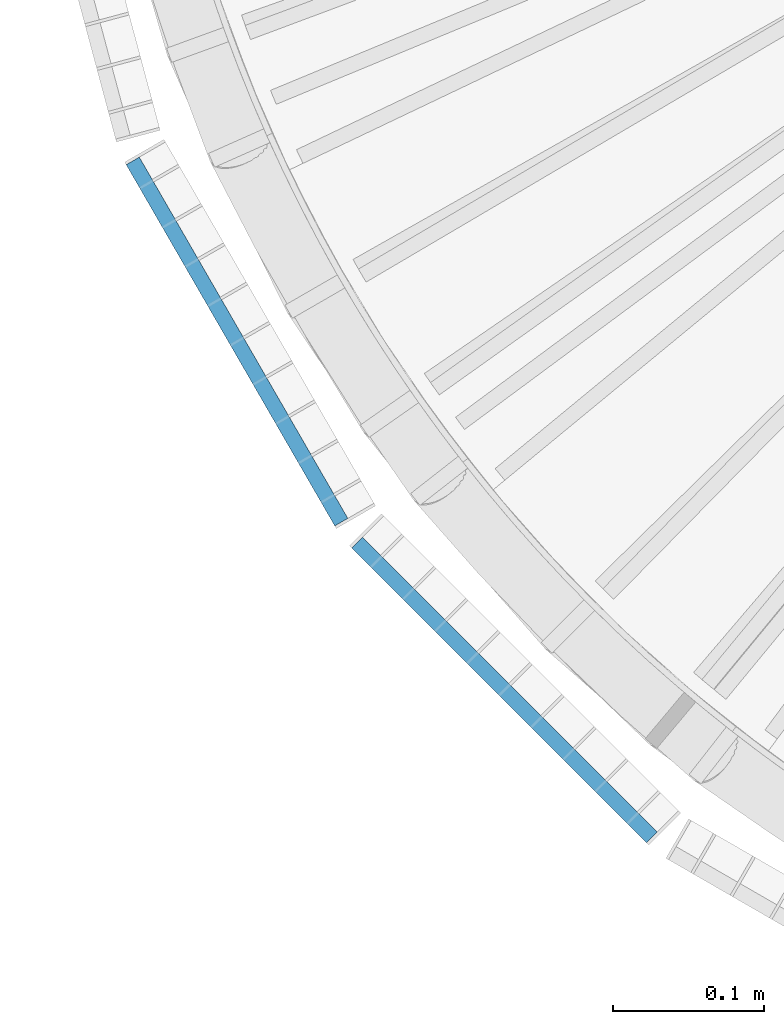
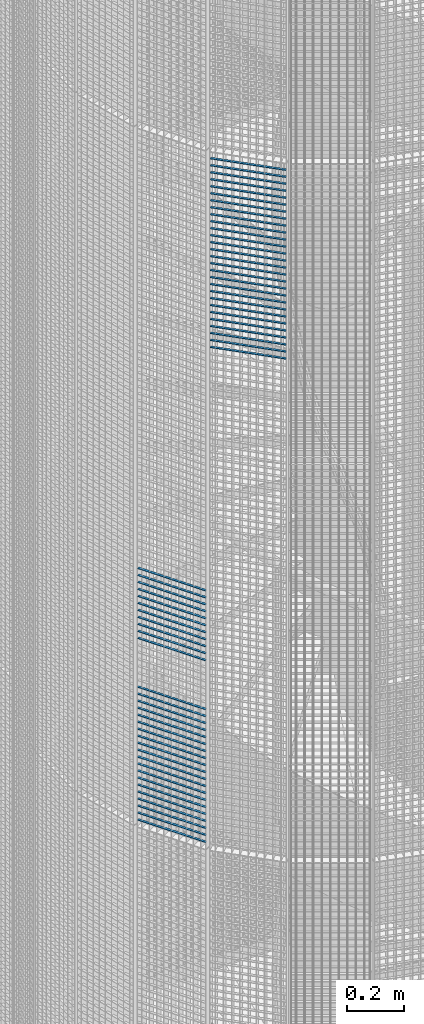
# One storey, part 348 of 1183: 59 beams, 2 elements without a shape of their own.
"""IFC2X3 building model written with IfcOpenShell, lengths in millimetres."""

from ifc_helpers import new_model, si_unit, frame, origin_with_axes, origin_2d_with_axis, place, context, subcontext, project, spatial, rectangle, extrude, material, type_object, element, aggregate, save


model = new_model("IFC2X3")

# Units and contexts
model_context = context("Model", 3, precision=1e-05, world=origin_with_axes())
body_context = subcontext(model_context, "Body", "Model", "MODEL_VIEW")
ifc_project = project(units=[si_unit("LENGTHUNIT", "METRE", prefix="MILLI"), si_unit("AREAUNIT", "SQUARE_METRE"), si_unit("VOLUMEUNIT", "CUBIC_METRE"), si_unit("MASSUNIT", "GRAM", prefix="KILO"), si_unit("TIMEUNIT", "SECOND"), si_unit("PLANEANGLEUNIT", "RADIAN"), si_unit("SOLIDANGLEUNIT", "STERADIAN"), si_unit("THERMODYNAMICTEMPERATUREUNIT", "DEGREE_CELSIUS"), si_unit("LUMINOUSINTENSITYUNIT", "LUMEN")], contexts=[model_context])

# Site, building, storey
site_placement = place(None, origin_with_axes())
site = spatial("IfcSite", under=ifc_project, at=site_placement, Name="Undefined", CompositionType="ELEMENT")
building_placement = place(site_placement, origin_with_axes())
building = spatial("IfcBuilding", under=site, at=building_placement, Name="Undefined", CompositionType="ELEMENT")
storey_placement = place(building_placement, origin_with_axes())
storey = spatial("IfcBuildingStorey", under=building, at=storey_placement, Name="Undefined", CompositionType="ELEMENT", Elevation=0.0)

# Assembly, beams
assembly_1_placement = place(storey_placement, origin_with_axes())
assembly_1 = element("IfcElementAssembly", 1, at=assembly_1_placement, inside=storey, Name="BORDURE", AssemblyPlace="NOTDEFINED", PredefinedType="NOTDEFINED")
ifc_material = material(Name="STEEL/S235JR")
beam_type = type_object("IfcBeamType", Name="PL2*10", PredefinedType="NOTDEFINED")
beam_1_placement = place(assembly_1_placement, frame((20704.6960350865, -676.248044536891, 12600.0), z_axis=(-0.866025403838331, -0.499999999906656, 0.0), x_axis=(-0.49999999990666, 0.866025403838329, 0.0)))
beam_1 = element("IfcBeam", 2, at=beam_1_placement, type_object=beam_type, material=ifc_material, Name="ENTRETOISE", context=body_context, shape_type="SweptSolid", body=[
    extrude(rectangle(XDim=2.0, YDim=10.0, at=origin_2d_with_axis()), frame((275.999999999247, 9.09494701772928e-13, 1.53210777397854e-14), z_axis=(-1.0, 0.0, 0.0), x_axis=(0.0, -1.0, 0.0)), (0.0, 0.0, 1.0), 276.0),
])
beam_2_placement = place(assembly_1_placement, frame((20704.6960350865, -676.248044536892, 12810.0), z_axis=(-0.866025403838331, -0.499999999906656, 0.0), x_axis=(-0.49999999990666, 0.866025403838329, 0.0)))
beam_2 = element("IfcBeam", 3, at=beam_2_placement, type_object=beam_type, material=ifc_material, Name="ENTRETOISE", context=body_context, shape_type="SweptSolid", body=[
    extrude(rectangle(XDim=2.0, YDim=10.0, at=origin_2d_with_axis()), frame((275.999999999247, 9.09494701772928e-13, 1.53210777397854e-14), z_axis=(-1.0, 0.0, 0.0), x_axis=(0.0, -1.0, 0.0)), (0.0, 0.0, 1.0), 276.0),
])
beam_3_placement = place(assembly_1_placement, frame((20704.6960350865, -676.248044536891, 12570.0), z_axis=(-0.866025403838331, -0.499999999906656, 0.0), x_axis=(-0.49999999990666, 0.866025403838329, 0.0)))
beam_3 = element("IfcBeam", 4, at=beam_3_placement, type_object=beam_type, material=ifc_material, Name="ENTRETOISE", context=body_context, shape_type="SweptSolid", body=[
    extrude(rectangle(XDim=2.0, YDim=10.0, at=origin_2d_with_axis()), frame((275.999999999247, 9.09494701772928e-13, 1.53210777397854e-14), z_axis=(-1.0, 0.0, 0.0), x_axis=(0.0, -1.0, 0.0)), (0.0, 0.0, 1.0), 276.0),
])
beam_4_placement = place(assembly_1_placement, frame((20704.6960350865, -676.248044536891, 12540.0), z_axis=(-0.866025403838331, -0.499999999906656, 0.0), x_axis=(-0.49999999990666, 0.866025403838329, 0.0)))
beam_4 = element("IfcBeam", 5, at=beam_4_placement, type_object=beam_type, material=ifc_material, Name="ENTRETOISE", context=body_context, shape_type="SweptSolid", body=[
    extrude(rectangle(XDim=2.0, YDim=10.0, at=origin_2d_with_axis()), frame((275.999999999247, 9.09494701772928e-13, 1.53210777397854e-14), z_axis=(-1.0, 0.0, 0.0), x_axis=(0.0, -1.0, 0.0)), (0.0, 0.0, 1.0), 276.0),
])
beam_5_placement = place(assembly_1_placement, frame((20704.6960350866, -676.248044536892, 12840.0), z_axis=(-0.866025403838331, -0.499999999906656, 0.0), x_axis=(-0.49999999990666, 0.866025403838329, 0.0)))
beam_5 = element("IfcBeam", 6, at=beam_5_placement, type_object=beam_type, material=ifc_material, Name="ENTRETOISE", context=body_context, shape_type="SweptSolid", body=[
    extrude(rectangle(XDim=2.0, YDim=10.0, at=origin_2d_with_axis()), frame((275.999999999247, 9.09494701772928e-13, 1.53210777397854e-14), z_axis=(-1.0, 0.0, 0.0), x_axis=(0.0, -1.0, 0.0)), (0.0, 0.0, 1.0), 276.0),
])
beam_6_placement = place(assembly_1_placement, frame((20704.6960350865, -676.248044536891, 12510.0), z_axis=(-0.866025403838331, -0.499999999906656, 0.0), x_axis=(-0.49999999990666, 0.866025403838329, 0.0)))
beam_6 = element("IfcBeam", 7, at=beam_6_placement, type_object=beam_type, material=ifc_material, Name="ENTRETOISE", context=body_context, shape_type="SweptSolid", body=[
    extrude(rectangle(XDim=2.0, YDim=10.0, at=origin_2d_with_axis()), frame((275.999999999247, 9.09494701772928e-13, 1.53210777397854e-14), z_axis=(-1.0, 0.0, 0.0), x_axis=(0.0, -1.0, 0.0)), (0.0, 0.0, 1.0), 276.0),
])
beam_7_placement = place(assembly_1_placement, frame((20704.6960350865, -676.248044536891, 12480.0), z_axis=(-0.866025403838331, -0.499999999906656, 0.0), x_axis=(-0.49999999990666, 0.866025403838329, 0.0)))
beam_7 = element("IfcBeam", 8, at=beam_7_placement, type_object=beam_type, material=ifc_material, Name="ENTRETOISE", context=body_context, shape_type="SweptSolid", body=[
    extrude(rectangle(XDim=2.0, YDim=10.0, at=origin_2d_with_axis()), frame((275.999999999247, 9.09494701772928e-13, 1.53210777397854e-14), z_axis=(-1.0, 0.0, 0.0), x_axis=(0.0, -1.0, 0.0)), (0.0, 0.0, 1.0), 276.0),
])
beam_8_placement = place(assembly_1_placement, frame((20704.6960350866, -676.248044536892, 12870.0), z_axis=(-0.866025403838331, -0.499999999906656, 0.0), x_axis=(-0.49999999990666, 0.866025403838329, 0.0)))
beam_8 = element("IfcBeam", 9, at=beam_8_placement, type_object=beam_type, material=ifc_material, Name="ENTRETOISE", context=body_context, shape_type="SweptSolid", body=[
    extrude(rectangle(XDim=2.0, YDim=10.0, at=origin_2d_with_axis()), frame((275.999999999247, 9.09494701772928e-13, 1.53210777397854e-14), z_axis=(-1.0, 0.0, 0.0), x_axis=(0.0, -1.0, 0.0)), (0.0, 0.0, 1.0), 276.0),
])
beam_9_placement = place(assembly_1_placement, frame((20704.6960350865, -676.248044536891, 12450.0), z_axis=(-0.866025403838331, -0.499999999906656, 0.0), x_axis=(-0.49999999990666, 0.866025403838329, 0.0)))
beam_9 = element("IfcBeam", 10, at=beam_9_placement, type_object=beam_type, material=ifc_material, Name="ENTRETOISE", context=body_context, shape_type="SweptSolid", body=[
    extrude(rectangle(XDim=2.0, YDim=10.0, at=origin_2d_with_axis()), frame((275.999999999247, 9.09494701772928e-13, 1.53210777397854e-14), z_axis=(-1.0, 0.0, 0.0), x_axis=(0.0, -1.0, 0.0)), (0.0, 0.0, 1.0), 276.0),
])
beam_10_placement = place(assembly_1_placement, frame((20704.6960350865, -676.24804453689, 12420.0), z_axis=(-0.866025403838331, -0.499999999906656, 0.0), x_axis=(-0.49999999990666, 0.866025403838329, 0.0)))
beam_10 = element("IfcBeam", 11, at=beam_10_placement, type_object=beam_type, material=ifc_material, Name="ENTRETOISE", context=body_context, shape_type="SweptSolid", body=[
    extrude(rectangle(XDim=2.0, YDim=10.0, at=origin_2d_with_axis()), frame((275.999999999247, 9.09494701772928e-13, 1.53210777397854e-14), z_axis=(-1.0, 0.0, 0.0), x_axis=(0.0, -1.0, 0.0)), (0.0, 0.0, 1.0), 276.0),
])
beam_11_placement = place(assembly_1_placement, frame((20704.6960350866, -676.248044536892, 12900.0), z_axis=(-0.866025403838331, -0.499999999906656, 0.0), x_axis=(-0.49999999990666, 0.866025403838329, 0.0)))
beam_11 = element("IfcBeam", 12, at=beam_11_placement, type_object=beam_type, material=ifc_material, Name="ENTRETOISE", context=body_context, shape_type="SweptSolid", body=[
    extrude(rectangle(XDim=2.0, YDim=10.0, at=origin_2d_with_axis()), frame((275.999999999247, 9.09494701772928e-13, 1.53210777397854e-14), z_axis=(-1.0, 0.0, 0.0), x_axis=(0.0, -1.0, 0.0)), (0.0, 0.0, 1.0), 276.0),
])
beam_12_placement = place(assembly_1_placement, frame((20704.6960350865, -676.24804453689, 12390.0), z_axis=(-0.866025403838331, -0.499999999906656, 0.0), x_axis=(-0.49999999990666, 0.866025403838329, 0.0)))
beam_12 = element("IfcBeam", 13, at=beam_12_placement, type_object=beam_type, material=ifc_material, Name="ENTRETOISE", context=body_context, shape_type="SweptSolid", body=[
    extrude(rectangle(XDim=2.0, YDim=10.0, at=origin_2d_with_axis()), frame((275.999999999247, 9.09494701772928e-13, 1.53210777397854e-14), z_axis=(-1.0, 0.0, 0.0), x_axis=(0.0, -1.0, 0.0)), (0.0, 0.0, 1.0), 276.0),
])
beam_13_placement = place(assembly_1_placement, frame((20704.6960350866, -676.248044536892, 12930.0), z_axis=(-0.866025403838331, -0.499999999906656, 0.0), x_axis=(-0.49999999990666, 0.866025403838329, 0.0)))
beam_13 = element("IfcBeam", 14, at=beam_13_placement, type_object=beam_type, material=ifc_material, Name="ENTRETOISE", context=body_context, shape_type="SweptSolid", body=[
    extrude(rectangle(XDim=2.0, YDim=10.0, at=origin_2d_with_axis()), frame((275.999999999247, 9.09494701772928e-13, 1.53210777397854e-14), z_axis=(-1.0, 0.0, 0.0), x_axis=(0.0, -1.0, 0.0)), (0.0, 0.0, 1.0), 276.0),
])
beam_14_placement = place(assembly_1_placement, frame((20704.6960350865, -676.24804453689, 12360.0), z_axis=(-0.866025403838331, -0.499999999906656, 0.0), x_axis=(-0.49999999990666, 0.866025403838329, 0.0)))
beam_14 = element("IfcBeam", 15, at=beam_14_placement, type_object=beam_type, material=ifc_material, Name="ENTRETOISE", context=body_context, shape_type="SweptSolid", body=[
    extrude(rectangle(XDim=2.0, YDim=10.0, at=origin_2d_with_axis()), frame((275.999999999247, 9.09494701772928e-13, 1.53210777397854e-14), z_axis=(-1.0, 0.0, 0.0), x_axis=(0.0, -1.0, 0.0)), (0.0, 0.0, 1.0), 276.0),
])
beam_15_placement = place(assembly_1_placement, frame((20704.6960350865, -676.24804453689, 12330.0), z_axis=(-0.866025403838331, -0.499999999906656, 0.0), x_axis=(-0.49999999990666, 0.866025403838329, 0.0)))
beam_15 = element("IfcBeam", 16, at=beam_15_placement, type_object=beam_type, material=ifc_material, Name="ENTRETOISE", context=body_context, shape_type="SweptSolid", body=[
    extrude(rectangle(XDim=2.0, YDim=10.0, at=origin_2d_with_axis()), frame((275.999999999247, 9.09494701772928e-13, 1.53210777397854e-14), z_axis=(-1.0, 0.0, 0.0), x_axis=(0.0, -1.0, 0.0)), (0.0, 0.0, 1.0), 276.0),
])
beam_16_placement = place(assembly_1_placement, frame((20704.6960350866, -676.248044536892, 12960.0), z_axis=(-0.866025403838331, -0.499999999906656, 0.0), x_axis=(-0.49999999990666, 0.866025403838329, 0.0)))
beam_16 = element("IfcBeam", 17, at=beam_16_placement, type_object=beam_type, material=ifc_material, Name="ENTRETOISE", context=body_context, shape_type="SweptSolid", body=[
    extrude(rectangle(XDim=2.0, YDim=10.0, at=origin_2d_with_axis()), frame((275.999999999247, 9.09494701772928e-13, 1.53210777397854e-14), z_axis=(-1.0, 0.0, 0.0), x_axis=(0.0, -1.0, 0.0)), (0.0, 0.0, 1.0), 276.0),
])
beam_17_placement = place(assembly_1_placement, frame((20704.6960350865, -676.24804453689, 12300.0), z_axis=(-0.866025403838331, -0.499999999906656, 0.0), x_axis=(-0.49999999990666, 0.866025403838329, 0.0)))
beam_17 = element("IfcBeam", 18, at=beam_17_placement, type_object=beam_type, material=ifc_material, Name="ENTRETOISE", context=body_context, shape_type="SweptSolid", body=[
    extrude(rectangle(XDim=2.0, YDim=10.0, at=origin_2d_with_axis()), frame((275.999999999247, 9.09494701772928e-13, 1.53210777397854e-14), z_axis=(-1.0, 0.0, 0.0), x_axis=(0.0, -1.0, 0.0)), (0.0, 0.0, 1.0), 276.0),
])
beam_18_placement = place(assembly_1_placement, frame((20704.6960350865, -676.24804453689, 12270.0), z_axis=(-0.866025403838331, -0.499999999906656, 0.0), x_axis=(-0.49999999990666, 0.866025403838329, 0.0)))
beam_18 = element("IfcBeam", 19, at=beam_18_placement, type_object=beam_type, material=ifc_material, Name="ENTRETOISE", context=body_context, shape_type="SweptSolid", body=[
    extrude(rectangle(XDim=2.0, YDim=10.0, at=origin_2d_with_axis()), frame((275.999999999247, 9.09494701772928e-13, 1.53210777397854e-14), z_axis=(-1.0, 0.0, 0.0), x_axis=(0.0, -1.0, 0.0)), (0.0, 0.0, 1.0), 276.0),
])
beam_19_placement = place(assembly_1_placement, frame((20704.6960350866, -676.248044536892, 12990.0), z_axis=(-0.866025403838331, -0.499999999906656, 0.0), x_axis=(-0.49999999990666, 0.866025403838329, 0.0)))
beam_19 = element("IfcBeam", 20, at=beam_19_placement, type_object=beam_type, material=ifc_material, Name="ENTRETOISE", context=body_context, shape_type="SweptSolid", body=[
    extrude(rectangle(XDim=2.0, YDim=10.0, at=origin_2d_with_axis()), frame((275.999999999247, 9.09494701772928e-13, 1.53210777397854e-14), z_axis=(-1.0, 0.0, 0.0), x_axis=(0.0, -1.0, 0.0)), (0.0, 0.0, 1.0), 276.0),
])
beam_20_placement = place(assembly_1_placement, frame((20704.6960350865, -676.24804453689, 12240.0), z_axis=(-0.866025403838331, -0.499999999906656, 0.0), x_axis=(-0.49999999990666, 0.866025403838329, 0.0)))
beam_20 = element("IfcBeam", 21, at=beam_20_placement, type_object=beam_type, material=ifc_material, Name="ENTRETOISE", context=body_context, shape_type="SweptSolid", body=[
    extrude(rectangle(XDim=2.0, YDim=10.0, at=origin_2d_with_axis()), frame((275.999999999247, 9.09494701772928e-13, 1.53210777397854e-14), z_axis=(-1.0, 0.0, 0.0), x_axis=(0.0, -1.0, 0.0)), (0.0, 0.0, 1.0), 276.0),
])
beam_21_placement = place(assembly_1_placement, frame((20704.6960350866, -676.248044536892, 13020.0), z_axis=(-0.866025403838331, -0.499999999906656, 0.0), x_axis=(-0.49999999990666, 0.866025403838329, 0.0)))
beam_21 = element("IfcBeam", 22, at=beam_21_placement, type_object=beam_type, material=ifc_material, Name="ENTRETOISE", context=body_context, shape_type="SweptSolid", body=[
    extrude(rectangle(XDim=2.0, YDim=10.0, at=origin_2d_with_axis()), frame((275.999999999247, 9.09494701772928e-13, 1.53210777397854e-14), z_axis=(-1.0, 0.0, 0.0), x_axis=(0.0, -1.0, 0.0)), (0.0, 0.0, 1.0), 276.0),
])
beam_22_placement = place(assembly_1_placement, frame((20704.6960350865, -676.24804453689, 12210.0), z_axis=(-0.866025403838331, -0.499999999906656, 0.0), x_axis=(-0.49999999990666, 0.866025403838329, 0.0)))
beam_22 = element("IfcBeam", 23, at=beam_22_placement, type_object=beam_type, material=ifc_material, Name="ENTRETOISE", context=body_context, shape_type="SweptSolid", body=[
    extrude(rectangle(XDim=2.0, YDim=10.0, at=origin_2d_with_axis()), frame((275.999999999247, 9.09494701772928e-13, 1.53210777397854e-14), z_axis=(-1.0, 0.0, 0.0), x_axis=(0.0, -1.0, 0.0)), (0.0, 0.0, 1.0), 276.0),
])
beam_23_placement = place(assembly_1_placement, frame((20704.6960350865, -676.24804453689, 12180.0), z_axis=(-0.866025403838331, -0.499999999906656, 0.0), x_axis=(-0.49999999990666, 0.866025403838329, 0.0)))
beam_23 = element("IfcBeam", 24, at=beam_23_placement, type_object=beam_type, material=ifc_material, Name="ENTRETOISE", context=body_context, shape_type="SweptSolid", body=[
    extrude(rectangle(XDim=2.0, YDim=10.0, at=origin_2d_with_axis()), frame((275.999999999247, 9.09494701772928e-13, 1.53210777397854e-14), z_axis=(-1.0, 0.0, 0.0), x_axis=(0.0, -1.0, 0.0)), (0.0, 0.0, 1.0), 276.0),
])
beam_24_placement = place(assembly_1_placement, frame((20704.6960350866, -676.248044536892, 13050.0), z_axis=(-0.866025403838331, -0.499999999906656, 0.0), x_axis=(-0.49999999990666, 0.866025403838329, 0.0)))
beam_24 = element("IfcBeam", 25, at=beam_24_placement, type_object=beam_type, material=ifc_material, Name="ENTRETOISE", context=body_context, shape_type="SweptSolid", body=[
    extrude(rectangle(XDim=2.0, YDim=10.0, at=origin_2d_with_axis()), frame((275.999999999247, 9.09494701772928e-13, 1.53210777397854e-14), z_axis=(-1.0, 0.0, 0.0), x_axis=(0.0, -1.0, 0.0)), (0.0, 0.0, 1.0), 276.0),
])
beam_25_placement = place(assembly_1_placement, frame((20704.6960350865, -676.24804453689, 12150.0), z_axis=(-0.866025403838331, -0.499999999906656, 0.0), x_axis=(-0.49999999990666, 0.866025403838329, 0.0)))
beam_25 = element("IfcBeam", 26, at=beam_25_placement, type_object=beam_type, material=ifc_material, Name="ENTRETOISE", context=body_context, shape_type="SweptSolid", body=[
    extrude(rectangle(XDim=2.0, YDim=10.0, at=origin_2d_with_axis()), frame((275.999999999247, 9.09494701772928e-13, 1.53210777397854e-14), z_axis=(-1.0, 0.0, 0.0), x_axis=(0.0, -1.0, 0.0)), (0.0, 0.0, 1.0), 276.0),
])
beam_26_placement = place(assembly_1_placement, frame((20704.6960350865, -676.24804453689, 12120.0), z_axis=(-0.866025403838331, -0.499999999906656, 0.0), x_axis=(-0.49999999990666, 0.866025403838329, 0.0)))
beam_26 = element("IfcBeam", 27, at=beam_26_placement, type_object=beam_type, material=ifc_material, Name="ENTRETOISE", context=body_context, shape_type="SweptSolid", body=[
    extrude(rectangle(XDim=2.0, YDim=10.0, at=origin_2d_with_axis()), frame((275.999999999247, 9.09494701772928e-13, 1.53210777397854e-14), z_axis=(-1.0, 0.0, 0.0), x_axis=(0.0, -1.0, 0.0)), (0.0, 0.0, 1.0), 276.0),
])
beam_27_placement = place(assembly_1_placement, frame((20704.6960350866, -676.248044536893, 13080.0), z_axis=(-0.866025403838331, -0.499999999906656, 0.0), x_axis=(-0.49999999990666, 0.866025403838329, 0.0)))
beam_27 = element("IfcBeam", 28, at=beam_27_placement, type_object=beam_type, material=ifc_material, Name="ENTRETOISE", context=body_context, shape_type="SweptSolid", body=[
    extrude(rectangle(XDim=2.0, YDim=10.0, at=origin_2d_with_axis()), frame((275.999999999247, 9.09494701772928e-13, 1.53210777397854e-14), z_axis=(-1.0, 0.0, 0.0), x_axis=(0.0, -1.0, 0.0)), (0.0, 0.0, 1.0), 276.0),
])
beam_28_placement = place(assembly_1_placement, frame((20704.6960350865, -676.248044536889, 12090.0), z_axis=(-0.866025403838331, -0.499999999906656, 0.0), x_axis=(-0.49999999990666, 0.866025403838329, 0.0)))
beam_28 = element("IfcBeam", 29, at=beam_28_placement, type_object=beam_type, material=ifc_material, Name="ENTRETOISE", context=body_context, shape_type="SweptSolid", body=[
    extrude(rectangle(XDim=2.0, YDim=10.0, at=origin_2d_with_axis()), frame((275.999999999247, 9.09494701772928e-13, 1.53210777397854e-14), z_axis=(-1.0, 0.0, 0.0), x_axis=(0.0, -1.0, 0.0)), (0.0, 0.0, 1.0), 276.0),
])
beam_29_placement = place(assembly_1_placement, frame((20704.6960350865, -676.248044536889, 12060.0), z_axis=(-0.866025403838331, -0.499999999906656, 0.0), x_axis=(-0.49999999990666, 0.866025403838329, 0.0)))
beam_29 = element("IfcBeam", 30, at=beam_29_placement, type_object=beam_type, material=ifc_material, Name="ENTRETOISE", context=body_context, shape_type="SweptSolid", body=[
    extrude(rectangle(XDim=2.0, YDim=10.0, at=origin_2d_with_axis()), frame((275.999999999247, 9.09494701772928e-13, 1.53210777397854e-14), z_axis=(-1.0, 0.0, 0.0), x_axis=(0.0, -1.0, 0.0)), (0.0, 0.0, 1.0), 276.0),
])
beam_30_placement = place(assembly_1_placement, frame((20704.6960350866, -676.248044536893, 13110.0), z_axis=(-0.866025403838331, -0.499999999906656, 0.0), x_axis=(-0.49999999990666, 0.866025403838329, 0.0)))
beam_30 = element("IfcBeam", 31, at=beam_30_placement, type_object=beam_type, material=ifc_material, Name="ENTRETOISE", context=body_context, shape_type="SweptSolid", body=[
    extrude(rectangle(XDim=2.0, YDim=10.0, at=origin_2d_with_axis()), frame((275.999999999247, 9.09494701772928e-13, 1.53210777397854e-14), z_axis=(-1.0, 0.0, 0.0), x_axis=(0.0, -1.0, 0.0)), (0.0, 0.0, 1.0), 276.0),
])
beam_31_placement = place(assembly_1_placement, frame((20704.6960350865, -676.248044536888, 12030.0), z_axis=(-0.866025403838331, -0.499999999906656, 0.0), x_axis=(-0.49999999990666, 0.866025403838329, 0.0)))
beam_31 = element("IfcBeam", 32, at=beam_31_placement, type_object=beam_type, material=ifc_material, Name="ENTRETOISE", context=body_context, shape_type="SweptSolid", body=[
    extrude(rectangle(XDim=2.0, YDim=10.0, at=origin_2d_with_axis()), frame((275.999999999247, 9.09494701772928e-13, 1.53210777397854e-14), z_axis=(-1.0, 0.0, 0.0), x_axis=(0.0, -1.0, 0.0)), (0.0, 0.0, 1.0), 276.0),
])
aggregate(assembly_1, [beam_1, beam_2, beam_3, beam_4, beam_5, beam_6, beam_7, beam_8, beam_9, beam_10, beam_11, beam_12, beam_13, beam_14, beam_15, beam_16, beam_17, beam_18, beam_19, beam_20, beam_21, beam_22, beam_23, beam_24, beam_25, beam_26, beam_27, beam_28, beam_29, beam_30, beam_31])

assembly_2_placement = place(storey_placement, origin_with_axes())
assembly_2 = element("IfcElementAssembly", 33, at=assembly_2_placement, inside=storey, Name="BORDURE", AssemblyPlace="NOTDEFINED", PredefinedType="NOTDEFINED")
beam_32_placement = place(assembly_2_placement, frame((20910.2286510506, -884.927168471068, 14970.0), z_axis=(-0.70710678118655, -0.707106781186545, 0.0), x_axis=(-0.707106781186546, 0.707106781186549, 0.0)))
beam_32 = element("IfcBeam", 34, at=beam_32_placement, type_object=beam_type, material=ifc_material, Name="ENTRETOISE", context=body_context, shape_type="SweptSolid", body=[
    extrude(rectangle(XDim=2.0, YDim=10.0, at=origin_2d_with_axis()), frame((275.999999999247, 9.09494701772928e-13, 1.53210777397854e-14), z_axis=(-1.0, 0.0, 0.0), x_axis=(0.0, -1.0, 0.0)), (0.0, 0.0, 1.0), 276.0),
])
beam_33_placement = place(assembly_2_placement, frame((20910.2286510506, -884.927168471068, 14940.0), z_axis=(-0.70710678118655, -0.707106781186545, 0.0), x_axis=(-0.707106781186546, 0.707106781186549, 0.0)))
beam_33 = element("IfcBeam", 35, at=beam_33_placement, type_object=beam_type, material=ifc_material, Name="ENTRETOISE", context=body_context, shape_type="SweptSolid", body=[
    extrude(rectangle(XDim=2.0, YDim=10.0, at=origin_2d_with_axis()), frame((275.999999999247, 9.09494701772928e-13, 1.53210777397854e-14), z_axis=(-1.0, 0.0, 0.0), x_axis=(0.0, -1.0, 0.0)), (0.0, 0.0, 1.0), 276.0),
])
beam_34_placement = place(assembly_2_placement, frame((20910.2286510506, -884.927168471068, 14910.0), z_axis=(-0.70710678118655, -0.707106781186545, 0.0), x_axis=(-0.707106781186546, 0.707106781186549, 0.0)))
beam_34 = element("IfcBeam", 36, at=beam_34_placement, type_object=beam_type, material=ifc_material, Name="ENTRETOISE", context=body_context, shape_type="SweptSolid", body=[
    extrude(rectangle(XDim=2.0, YDim=10.0, at=origin_2d_with_axis()), frame((275.999999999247, 9.09494701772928e-13, 1.53210777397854e-14), z_axis=(-1.0, 0.0, 0.0), x_axis=(0.0, -1.0, 0.0)), (0.0, 0.0, 1.0), 276.0),
])
beam_35_placement = place(assembly_2_placement, frame((20910.2286510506, -884.927168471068, 14880.0), z_axis=(-0.70710678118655, -0.707106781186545, 0.0), x_axis=(-0.707106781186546, 0.707106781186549, 0.0)))
beam_35 = element("IfcBeam", 37, at=beam_35_placement, type_object=beam_type, material=ifc_material, Name="ENTRETOISE", context=body_context, shape_type="SweptSolid", body=[
    extrude(rectangle(XDim=2.0, YDim=10.0, at=origin_2d_with_axis()), frame((275.999999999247, 9.09494701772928e-13, 1.53210777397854e-14), z_axis=(-1.0, 0.0, 0.0), x_axis=(0.0, -1.0, 0.0)), (0.0, 0.0, 1.0), 276.0),
])
beam_36_placement = place(assembly_2_placement, frame((20910.2286510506, -884.927168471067, 14850.0), z_axis=(-0.70710678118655, -0.707106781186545, 0.0), x_axis=(-0.707106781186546, 0.707106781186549, 0.0)))
beam_36 = element("IfcBeam", 38, at=beam_36_placement, type_object=beam_type, material=ifc_material, Name="ENTRETOISE", context=body_context, shape_type="SweptSolid", body=[
    extrude(rectangle(XDim=2.0, YDim=10.0, at=origin_2d_with_axis()), frame((275.999999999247, 9.09494701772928e-13, 1.53210777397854e-14), z_axis=(-1.0, 0.0, 0.0), x_axis=(0.0, -1.0, 0.0)), (0.0, 0.0, 1.0), 276.0),
])
beam_37_placement = place(assembly_2_placement, frame((20910.2286510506, -884.927168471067, 14820.0), z_axis=(-0.70710678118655, -0.707106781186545, 0.0), x_axis=(-0.707106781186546, 0.707106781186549, 0.0)))
beam_37 = element("IfcBeam", 39, at=beam_37_placement, type_object=beam_type, material=ifc_material, Name="ENTRETOISE", context=body_context, shape_type="SweptSolid", body=[
    extrude(rectangle(XDim=2.0, YDim=10.0, at=origin_2d_with_axis()), frame((275.999999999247, 9.09494701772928e-13, 1.53210777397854e-14), z_axis=(-1.0, 0.0, 0.0), x_axis=(0.0, -1.0, 0.0)), (0.0, 0.0, 1.0), 276.0),
])
beam_38_placement = place(assembly_2_placement, frame((20910.2286510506, -884.927168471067, 14790.0), z_axis=(-0.70710678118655, -0.707106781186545, 0.0), x_axis=(-0.707106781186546, 0.707106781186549, 0.0)))
beam_38 = element("IfcBeam", 40, at=beam_38_placement, type_object=beam_type, material=ifc_material, Name="ENTRETOISE", context=body_context, shape_type="SweptSolid", body=[
    extrude(rectangle(XDim=2.0, YDim=10.0, at=origin_2d_with_axis()), frame((275.999999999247, 9.09494701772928e-13, 1.53210777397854e-14), z_axis=(-1.0, 0.0, 0.0), x_axis=(0.0, -1.0, 0.0)), (0.0, 0.0, 1.0), 276.0),
])
beam_39_placement = place(assembly_2_placement, frame((20910.2286510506, -884.927168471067, 14760.0), z_axis=(-0.70710678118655, -0.707106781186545, 0.0), x_axis=(-0.707106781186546, 0.707106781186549, 0.0)))
beam_39 = element("IfcBeam", 41, at=beam_39_placement, type_object=beam_type, material=ifc_material, Name="ENTRETOISE", context=body_context, shape_type="SweptSolid", body=[
    extrude(rectangle(XDim=2.0, YDim=10.0, at=origin_2d_with_axis()), frame((275.999999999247, 9.09494701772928e-13, 1.53210777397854e-14), z_axis=(-1.0, 0.0, 0.0), x_axis=(0.0, -1.0, 0.0)), (0.0, 0.0, 1.0), 276.0),
])
beam_40_placement = place(assembly_2_placement, frame((20910.2286510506, -884.927168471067, 14730.0), z_axis=(-0.70710678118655, -0.707106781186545, 0.0), x_axis=(-0.707106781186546, 0.707106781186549, 0.0)))
beam_40 = element("IfcBeam", 42, at=beam_40_placement, type_object=beam_type, material=ifc_material, Name="ENTRETOISE", context=body_context, shape_type="SweptSolid", body=[
    extrude(rectangle(XDim=2.0, YDim=10.0, at=origin_2d_with_axis()), frame((275.999999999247, 9.09494701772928e-13, 1.53210777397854e-14), z_axis=(-1.0, 0.0, 0.0), x_axis=(0.0, -1.0, 0.0)), (0.0, 0.0, 1.0), 276.0),
])
beam_41_placement = place(assembly_2_placement, frame((20910.2286510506, -884.927168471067, 14700.0), z_axis=(-0.70710678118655, -0.707106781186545, 0.0), x_axis=(-0.707106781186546, 0.707106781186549, 0.0)))
beam_41 = element("IfcBeam", 43, at=beam_41_placement, type_object=beam_type, material=ifc_material, Name="ENTRETOISE", context=body_context, shape_type="SweptSolid", body=[
    extrude(rectangle(XDim=2.0, YDim=10.0, at=origin_2d_with_axis()), frame((275.999999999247, 9.09494701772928e-13, 1.53210777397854e-14), z_axis=(-1.0, 0.0, 0.0), x_axis=(0.0, -1.0, 0.0)), (0.0, 0.0, 1.0), 276.0),
])
beam_42_placement = place(assembly_2_placement, frame((20910.2286510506, -884.927168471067, 14670.0), z_axis=(-0.70710678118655, -0.707106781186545, 0.0), x_axis=(-0.707106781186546, 0.707106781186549, 0.0)))
beam_42 = element("IfcBeam", 44, at=beam_42_placement, type_object=beam_type, material=ifc_material, Name="ENTRETOISE", context=body_context, shape_type="SweptSolid", body=[
    extrude(rectangle(XDim=2.0, YDim=10.0, at=origin_2d_with_axis()), frame((275.999999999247, 9.09494701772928e-13, 1.53210777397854e-14), z_axis=(-1.0, 0.0, 0.0), x_axis=(0.0, -1.0, 0.0)), (0.0, 0.0, 1.0), 276.0),
])
beam_43_placement = place(assembly_2_placement, frame((20910.2286510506, -884.927168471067, 14640.0), z_axis=(-0.70710678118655, -0.707106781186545, 0.0), x_axis=(-0.707106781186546, 0.707106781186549, 0.0)))
beam_43 = element("IfcBeam", 45, at=beam_43_placement, type_object=beam_type, material=ifc_material, Name="ENTRETOISE", context=body_context, shape_type="SweptSolid", body=[
    extrude(rectangle(XDim=2.0, YDim=10.0, at=origin_2d_with_axis()), frame((275.999999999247, 9.09494701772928e-13, 1.53210777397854e-14), z_axis=(-1.0, 0.0, 0.0), x_axis=(0.0, -1.0, 0.0)), (0.0, 0.0, 1.0), 276.0),
])
beam_44_placement = place(assembly_2_placement, frame((20910.2286510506, -884.927168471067, 14610.0), z_axis=(-0.70710678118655, -0.707106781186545, 0.0), x_axis=(-0.707106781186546, 0.707106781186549, 0.0)))
beam_44 = element("IfcBeam", 46, at=beam_44_placement, type_object=beam_type, material=ifc_material, Name="ENTRETOISE", context=body_context, shape_type="SweptSolid", body=[
    extrude(rectangle(XDim=2.0, YDim=10.0, at=origin_2d_with_axis()), frame((275.999999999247, 9.09494701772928e-13, 1.53210777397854e-14), z_axis=(-1.0, 0.0, 0.0), x_axis=(0.0, -1.0, 0.0)), (0.0, 0.0, 1.0), 276.0),
])
beam_45_placement = place(assembly_2_placement, frame((20910.2286510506, -884.927168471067, 14580.0), z_axis=(-0.70710678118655, -0.707106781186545, 0.0), x_axis=(-0.707106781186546, 0.707106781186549, 0.0)))
beam_45 = element("IfcBeam", 47, at=beam_45_placement, type_object=beam_type, material=ifc_material, Name="ENTRETOISE", context=body_context, shape_type="SweptSolid", body=[
    extrude(rectangle(XDim=2.0, YDim=10.0, at=origin_2d_with_axis()), frame((275.999999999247, 9.09494701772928e-13, 1.53210777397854e-14), z_axis=(-1.0, 0.0, 0.0), x_axis=(0.0, -1.0, 0.0)), (0.0, 0.0, 1.0), 276.0),
])
beam_46_placement = place(assembly_2_placement, frame((20910.2286510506, -884.927168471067, 14550.0), z_axis=(-0.70710678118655, -0.707106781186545, 0.0), x_axis=(-0.707106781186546, 0.707106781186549, 0.0)))
beam_46 = element("IfcBeam", 48, at=beam_46_placement, type_object=beam_type, material=ifc_material, Name="ENTRETOISE", context=body_context, shape_type="SweptSolid", body=[
    extrude(rectangle(XDim=2.0, YDim=10.0, at=origin_2d_with_axis()), frame((275.999999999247, 9.09494701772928e-13, 1.53210777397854e-14), z_axis=(-1.0, 0.0, 0.0), x_axis=(0.0, -1.0, 0.0)), (0.0, 0.0, 1.0), 276.0),
])
beam_47_placement = place(assembly_2_placement, frame((20910.2286510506, -884.927168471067, 14520.0), z_axis=(-0.70710678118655, -0.707106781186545, 0.0), x_axis=(-0.707106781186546, 0.707106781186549, 0.0)))
beam_47 = element("IfcBeam", 49, at=beam_47_placement, type_object=beam_type, material=ifc_material, Name="ENTRETOISE", context=body_context, shape_type="SweptSolid", body=[
    extrude(rectangle(XDim=2.0, YDim=10.0, at=origin_2d_with_axis()), frame((275.999999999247, 9.09494701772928e-13, 1.53210777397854e-14), z_axis=(-1.0, 0.0, 0.0), x_axis=(0.0, -1.0, 0.0)), (0.0, 0.0, 1.0), 276.0),
])
beam_48_placement = place(assembly_2_placement, frame((20910.2286510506, -884.927168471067, 14490.0), z_axis=(-0.70710678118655, -0.707106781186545, 0.0), x_axis=(-0.707106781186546, 0.707106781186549, 0.0)))
beam_48 = element("IfcBeam", 50, at=beam_48_placement, type_object=beam_type, material=ifc_material, Name="ENTRETOISE", context=body_context, shape_type="SweptSolid", body=[
    extrude(rectangle(XDim=2.0, YDim=10.0, at=origin_2d_with_axis()), frame((275.999999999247, 9.09494701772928e-13, 1.53210777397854e-14), z_axis=(-1.0, 0.0, 0.0), x_axis=(0.0, -1.0, 0.0)), (0.0, 0.0, 1.0), 276.0),
])
beam_49_placement = place(assembly_2_placement, frame((20910.2286510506, -884.927168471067, 14460.0), z_axis=(-0.70710678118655, -0.707106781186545, 0.0), x_axis=(-0.707106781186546, 0.707106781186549, 0.0)))
beam_49 = element("IfcBeam", 51, at=beam_49_placement, type_object=beam_type, material=ifc_material, Name="ENTRETOISE", context=body_context, shape_type="SweptSolid", body=[
    extrude(rectangle(XDim=2.0, YDim=10.0, at=origin_2d_with_axis()), frame((275.999999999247, 9.09494701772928e-13, 1.53210777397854e-14), z_axis=(-1.0, 0.0, 0.0), x_axis=(0.0, -1.0, 0.0)), (0.0, 0.0, 1.0), 276.0),
])
beam_50_placement = place(assembly_2_placement, frame((20910.2286510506, -884.927168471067, 14430.0), z_axis=(-0.70710678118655, -0.707106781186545, 0.0), x_axis=(-0.707106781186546, 0.707106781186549, 0.0)))
beam_50 = element("IfcBeam", 52, at=beam_50_placement, type_object=beam_type, material=ifc_material, Name="ENTRETOISE", context=body_context, shape_type="SweptSolid", body=[
    extrude(rectangle(XDim=2.0, YDim=10.0, at=origin_2d_with_axis()), frame((275.999999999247, 9.09494701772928e-13, 1.53210777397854e-14), z_axis=(-1.0, 0.0, 0.0), x_axis=(0.0, -1.0, 0.0)), (0.0, 0.0, 1.0), 276.0),
])
beam_51_placement = place(assembly_2_placement, frame((20910.2286510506, -884.927168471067, 14400.0), z_axis=(-0.70710678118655, -0.707106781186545, 0.0), x_axis=(-0.707106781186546, 0.707106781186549, 0.0)))
beam_51 = element("IfcBeam", 53, at=beam_51_placement, type_object=beam_type, material=ifc_material, Name="ENTRETOISE", context=body_context, shape_type="SweptSolid", body=[
    extrude(rectangle(XDim=2.0, YDim=10.0, at=origin_2d_with_axis()), frame((275.999999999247, 9.09494701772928e-13, 1.53210777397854e-14), z_axis=(-1.0, 0.0, 0.0), x_axis=(0.0, -1.0, 0.0)), (0.0, 0.0, 1.0), 276.0),
])
beam_52_placement = place(assembly_2_placement, frame((20910.2286510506, -884.927168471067, 14370.0), z_axis=(-0.70710678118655, -0.707106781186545, 0.0), x_axis=(-0.707106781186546, 0.707106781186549, 0.0)))
beam_52 = element("IfcBeam", 54, at=beam_52_placement, type_object=beam_type, material=ifc_material, Name="ENTRETOISE", context=body_context, shape_type="SweptSolid", body=[
    extrude(rectangle(XDim=2.0, YDim=10.0, at=origin_2d_with_axis()), frame((275.999999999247, 9.09494701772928e-13, 1.53210777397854e-14), z_axis=(-1.0, 0.0, 0.0), x_axis=(0.0, -1.0, 0.0)), (0.0, 0.0, 1.0), 276.0),
])
beam_53_placement = place(assembly_2_placement, frame((20910.2286510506, -884.927168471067, 14340.0), z_axis=(-0.70710678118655, -0.707106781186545, 0.0), x_axis=(-0.707106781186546, 0.707106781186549, 0.0)))
beam_53 = element("IfcBeam", 55, at=beam_53_placement, type_object=beam_type, material=ifc_material, Name="ENTRETOISE", context=body_context, shape_type="SweptSolid", body=[
    extrude(rectangle(XDim=2.0, YDim=10.0, at=origin_2d_with_axis()), frame((275.999999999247, 9.09494701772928e-13, 1.53210777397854e-14), z_axis=(-1.0, 0.0, 0.0), x_axis=(0.0, -1.0, 0.0)), (0.0, 0.0, 1.0), 276.0),
])
beam_54_placement = place(assembly_2_placement, frame((20910.2286510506, -884.927168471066, 14310.0), z_axis=(-0.70710678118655, -0.707106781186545, 0.0), x_axis=(-0.707106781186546, 0.707106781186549, 0.0)))
beam_54 = element("IfcBeam", 56, at=beam_54_placement, type_object=beam_type, material=ifc_material, Name="ENTRETOISE", context=body_context, shape_type="SweptSolid", body=[
    extrude(rectangle(XDim=2.0, YDim=10.0, at=origin_2d_with_axis()), frame((275.999999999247, 9.09494701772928e-13, 1.53210777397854e-14), z_axis=(-1.0, 0.0, 0.0), x_axis=(0.0, -1.0, 0.0)), (0.0, 0.0, 1.0), 276.0),
])
beam_55_placement = place(assembly_2_placement, frame((20910.2286510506, -884.927168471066, 14280.0), z_axis=(-0.70710678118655, -0.707106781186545, 0.0), x_axis=(-0.707106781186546, 0.707106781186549, 0.0)))
beam_55 = element("IfcBeam", 57, at=beam_55_placement, type_object=beam_type, material=ifc_material, Name="ENTRETOISE", context=body_context, shape_type="SweptSolid", body=[
    extrude(rectangle(XDim=2.0, YDim=10.0, at=origin_2d_with_axis()), frame((275.999999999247, 9.09494701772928e-13, 1.53210777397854e-14), z_axis=(-1.0, 0.0, 0.0), x_axis=(0.0, -1.0, 0.0)), (0.0, 0.0, 1.0), 276.0),
])
beam_56_placement = place(assembly_2_placement, frame((20910.2286510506, -884.927168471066, 14250.0), z_axis=(-0.70710678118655, -0.707106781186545, 0.0), x_axis=(-0.707106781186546, 0.707106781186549, 0.0)))
beam_56 = element("IfcBeam", 58, at=beam_56_placement, type_object=beam_type, material=ifc_material, Name="ENTRETOISE", context=body_context, shape_type="SweptSolid", body=[
    extrude(rectangle(XDim=2.0, YDim=10.0, at=origin_2d_with_axis()), frame((275.999999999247, 9.09494701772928e-13, 1.53210777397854e-14), z_axis=(-1.0, 0.0, 0.0), x_axis=(0.0, -1.0, 0.0)), (0.0, 0.0, 1.0), 276.0),
])
beam_57_placement = place(assembly_2_placement, frame((20910.2286510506, -884.927168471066, 14220.0), z_axis=(-0.70710678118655, -0.707106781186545, 0.0), x_axis=(-0.707106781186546, 0.707106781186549, 0.0)))
beam_57 = element("IfcBeam", 59, at=beam_57_placement, type_object=beam_type, material=ifc_material, Name="ENTRETOISE", context=body_context, shape_type="SweptSolid", body=[
    extrude(rectangle(XDim=2.0, YDim=10.0, at=origin_2d_with_axis()), frame((275.999999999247, 9.09494701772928e-13, 1.53210777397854e-14), z_axis=(-1.0, 0.0, 0.0), x_axis=(0.0, -1.0, 0.0)), (0.0, 0.0, 1.0), 276.0),
])
beam_58_placement = place(assembly_2_placement, frame((20910.2286510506, -884.927168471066, 14190.0), z_axis=(-0.70710678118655, -0.707106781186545, 0.0), x_axis=(-0.707106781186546, 0.707106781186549, 0.0)))
beam_58 = element("IfcBeam", 60, at=beam_58_placement, type_object=beam_type, material=ifc_material, Name="ENTRETOISE", context=body_context, shape_type="SweptSolid", body=[
    extrude(rectangle(XDim=2.0, YDim=10.0, at=origin_2d_with_axis()), frame((275.999999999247, 9.09494701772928e-13, 1.53210777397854e-14), z_axis=(-1.0, 0.0, 0.0), x_axis=(0.0, -1.0, 0.0)), (0.0, 0.0, 1.0), 276.0),
])
beam_59_placement = place(assembly_2_placement, frame((20910.2286510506, -884.927168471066, 14160.0), z_axis=(-0.70710678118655, -0.707106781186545, 0.0), x_axis=(-0.707106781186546, 0.707106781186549, 0.0)))
beam_59 = element("IfcBeam", 61, at=beam_59_placement, type_object=beam_type, material=ifc_material, Name="ENTRETOISE", context=body_context, shape_type="SweptSolid", body=[
    extrude(rectangle(XDim=2.0, YDim=10.0, at=origin_2d_with_axis()), frame((275.999999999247, 9.09494701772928e-13, 1.53210777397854e-14), z_axis=(-1.0, 0.0, 0.0), x_axis=(0.0, -1.0, 0.0)), (0.0, 0.0, 1.0), 276.0),
])
aggregate(assembly_2, [beam_32, beam_33, beam_34, beam_35, beam_36, beam_37, beam_38, beam_39, beam_40, beam_41, beam_42, beam_43, beam_44, beam_45, beam_46, beam_47, beam_48, beam_49, beam_50, beam_51, beam_52, beam_53, beam_54, beam_55, beam_56, beam_57, beam_58, beam_59])

save(model, "model.ifc")
